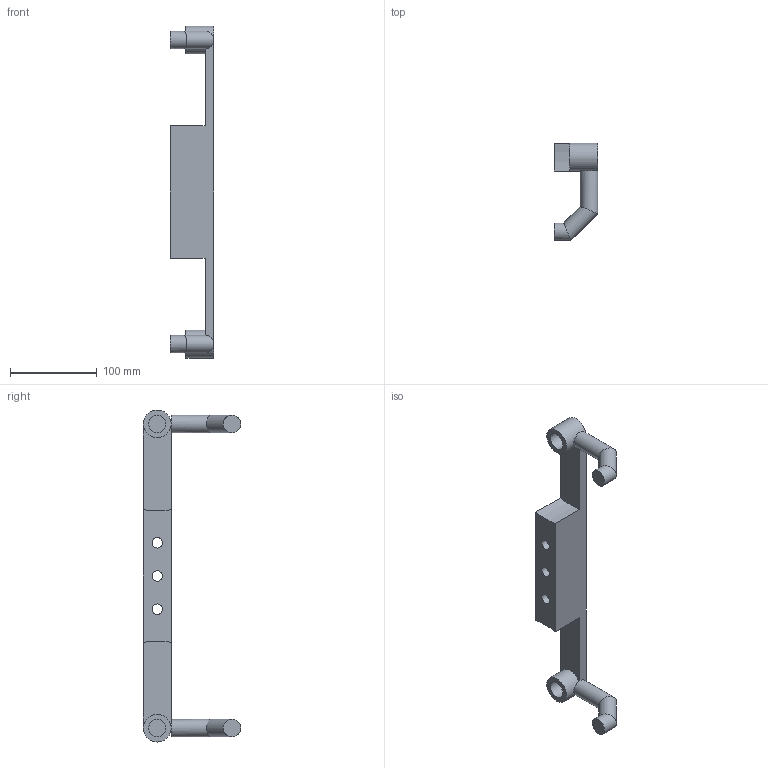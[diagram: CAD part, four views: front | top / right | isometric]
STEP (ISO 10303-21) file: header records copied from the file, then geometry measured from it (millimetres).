
FILE_DESCRIPTION(('STEP AP242'), '1');
FILE_NAME('扻豵鵨', '', ('UNSPECIFIED'), ('UNSPECIFIED'), 'C3D Converter', 'C3D Toolkit', '');
FILE_SCHEMA(('AP242_MANAGED_MODEL_BASED_3D_ENGINEERING_MIM_LF { 1 0 10303 442 1 1 4 }'));
Length unit declared in the file: millimetre
Bounding box: 50 x 112 x 382 mm (x, y, z)
Volume: 377650.8 mm3; surface area: 71880.4 mm2
Topology: 1 solids, 1 shells, 29 faces, 64 edges, 39 vertices
Faces by surface type: cylinder 15, plane 14
Full cylindrical faces by diameter (mm): 12 x3, 20 x8, 32 x2
Entity records: 798 total; most frequent: CARTESIAN_POINT 144, DIRECTION 136, ORIENTED_EDGE 102, AXIS2_PLACEMENT_3D 59, EDGE_CURVE 51, EDGE_LOOP 50, VERTEX_POINT 39, ADVANCED_FACE 29
